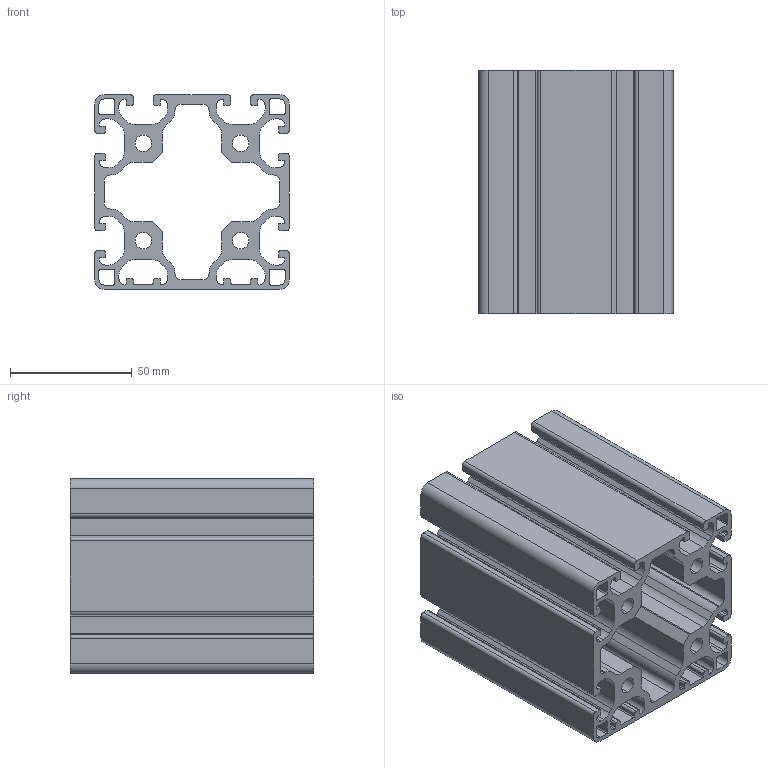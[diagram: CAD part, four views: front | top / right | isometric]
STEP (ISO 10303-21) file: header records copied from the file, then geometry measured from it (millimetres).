
FILE_DESCRIPTION (( 'STEP AP203' ), '1' );
FILE_NAME ('0108P8080-2NL.STEP', '2024-02-29T11:56:09', ( 'Windows-Benutzer' ), ( '' ), 'SwSTEP 2.0', 'SolidWorks 2023', '' );
FILE_SCHEMA (( 'CONFIG_CONTROL_DESIGN' ));
Length unit declared in the file: millimetre
Products named in the file (1): 0108P8080-2NL
Bounding box: 80 x 100 x 80 mm (x, y, z)
Volume: 202800.4 mm3; surface area: 118243.8 mm2
Topology: 1 solids, 1 shells, 334 faces, 996 edges, 664 vertices
Faces by surface type: cylinder 172, plane 162
Entity records: 11445 total; most frequent: DIRECTION 2010, CARTESIAN_POINT 1995, ORIENTED_EDGE 1992, EDGE_CURVE 996, AXIS2_PLACEMENT_3D 679, VERTEX_POINT 664, LINE 652, VECTOR 652
